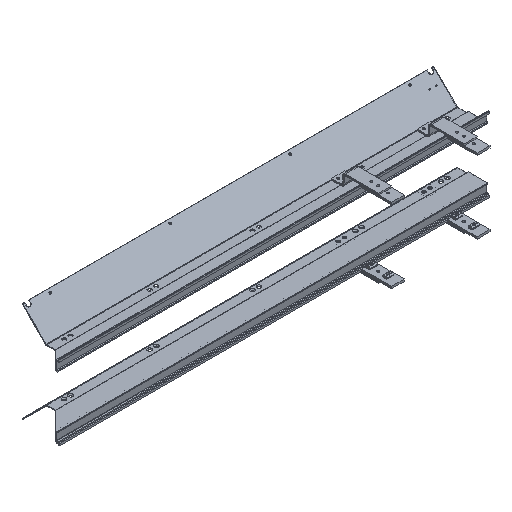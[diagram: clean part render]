
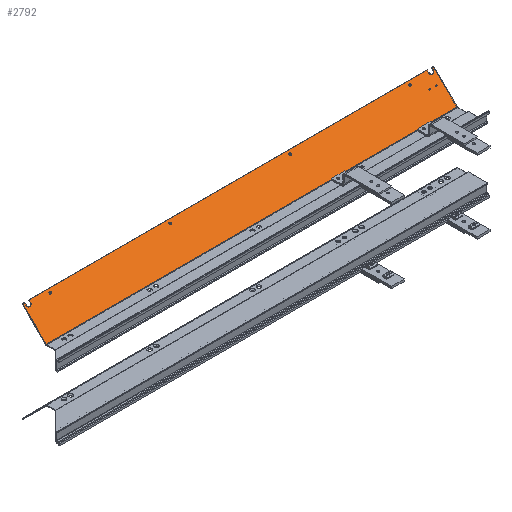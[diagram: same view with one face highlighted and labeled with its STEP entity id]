
A CAD part, isometric view. The second image highlights one B-rep face of the part: STEP entity #2792.
In plain terms, the highlighted planar face has unit normal (0, -0.707, 0.707).
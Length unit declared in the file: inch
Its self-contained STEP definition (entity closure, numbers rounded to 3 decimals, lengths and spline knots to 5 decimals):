
#1703=DIRECTION('',(-1.,0.,0.));
#1704=VECTOR('',#1703,48.);
#1705=CARTESIAN_POINT('',(0.,1.08655,-2.75135));
#1706=LINE('',#1705,#1704);
#1851=CARTESIAN_POINT('',(-47.5,3.65971,-0.17819));
#1852=DIRECTION('',(0.,-0.707,0.707));
#1853=DIRECTION('',(-1.,0.,0.));
#1854=AXIS2_PLACEMENT_3D('',#1851,#1852,#1853);
#1856=DIRECTION('',(0.,-0.707,-0.707));
#1857=VECTOR('',#1856,0.252);
#1858=CARTESIAN_POINT('',(-47.235,3.8379,0.));
#1859=LINE('',#1858,#1857);
#1860=DIRECTION('',(-1.,0.,0.));
#1861=VECTOR('',#1860,46.47);
#1862=CARTESIAN_POINT('',(-0.765,3.8379,0.));
#1863=LINE('',#1862,#1861);
#1864=DIRECTION('',(0.,-0.707,-0.707));
#1865=VECTOR('',#1864,0.252);
#1866=CARTESIAN_POINT('',(-0.765,3.8379,0.));
#1867=LINE('',#1866,#1865);
#1868=CARTESIAN_POINT('',(-0.5,3.65971,-0.17819));
#1869=DIRECTION('',(0.,-0.707,0.707));
#1870=DIRECTION('',(-1.,0.,0.));
#1871=AXIS2_PLACEMENT_3D('',#1868,#1869,#1870);
#1873=DIRECTION('',(0.,-0.707,-0.707));
#1874=VECTOR('',#1873,0.252);
#1875=CARTESIAN_POINT('',(-0.235,3.8379,0.));
#1876=LINE('',#1875,#1874);
#1877=DIRECTION('',(-1.,0.,0.));
#1878=VECTOR('',#1877,0.235);
#1879=CARTESIAN_POINT('',(0.,3.8379,0.));
#1880=LINE('',#1879,#1878);
#1881=DIRECTION('',(-1.,0.,0.));
#1882=VECTOR('',#1881,0.235);
#1883=CARTESIAN_POINT('',(-47.765,3.8379,0.));
#1884=LINE('',#1883,#1882);
#1885=DIRECTION('',(0.,-0.707,-0.707));
#1886=VECTOR('',#1885,0.252);
#1887=CARTESIAN_POINT('',(-47.765,3.8379,0.));
#1888=LINE('',#1887,#1886);
#1889=CARTESIAN_POINT('',(-31.,3.57274,-0.26517));
#1890=DIRECTION('',(0.,-0.707,0.707));
#1891=DIRECTION('',(-1.,0.,0.));
#1892=AXIS2_PLACEMENT_3D('',#1889,#1890,#1891);
#1894=CARTESIAN_POINT('',(-31.,3.57274,-0.26517));
#1895=DIRECTION('',(0.,-0.707,0.707));
#1896=DIRECTION('',(1.,0.,0.));
#1897=AXIS2_PLACEMENT_3D('',#1894,#1895,#1896);
#1899=CARTESIAN_POINT('',(-17.,3.57274,-0.26517));
#1900=DIRECTION('',(0.,-0.707,0.707));
#1901=DIRECTION('',(-1.,0.,0.));
#1902=AXIS2_PLACEMENT_3D('',#1899,#1900,#1901);
#1904=CARTESIAN_POINT('',(-17.,3.57274,-0.26517));
#1905=DIRECTION('',(0.,-0.707,0.707));
#1906=DIRECTION('',(1.,0.,0.));
#1907=AXIS2_PLACEMENT_3D('',#1904,#1905,#1906);
#1909=CARTESIAN_POINT('',(-3.,3.57274,-0.26517));
#1910=DIRECTION('',(0.,-0.707,0.707));
#1911=DIRECTION('',(-1.,0.,0.));
#1912=AXIS2_PLACEMENT_3D('',#1909,#1910,#1911);
#1914=CARTESIAN_POINT('',(-3.,3.57274,-0.26517));
#1915=DIRECTION('',(0.,-0.707,0.707));
#1916=DIRECTION('',(1.,0.,0.));
#1917=AXIS2_PLACEMENT_3D('',#1914,#1915,#1916);
#1919=CARTESIAN_POINT('',(-45.,3.57274,-0.26517));
#1920=DIRECTION('',(0.,-0.707,0.707));
#1921=DIRECTION('',(-1.,0.,0.));
#1922=AXIS2_PLACEMENT_3D('',#1919,#1920,#1921);
#1924=CARTESIAN_POINT('',(-45.,3.57274,-0.26517));
#1925=DIRECTION('',(0.,-0.707,0.707));
#1926=DIRECTION('',(1.,0.,0.));
#1927=AXIS2_PLACEMENT_3D('',#1924,#1925,#1926);
#1929=CARTESIAN_POINT('',(-0.75,2.77724,-1.06066));
#1930=DIRECTION('',(0.,-0.707,0.707));
#1931=DIRECTION('',(0.,-0.707,-0.707));
#1932=AXIS2_PLACEMENT_3D('',#1929,#1930,#1931);
#1934=CARTESIAN_POINT('',(-0.75,2.77724,-1.06066));
#1935=DIRECTION('',(0.,-0.707,0.707));
#1936=DIRECTION('',(0.,0.707,0.707));
#1937=AXIS2_PLACEMENT_3D('',#1934,#1935,#1936);
#1939=CARTESIAN_POINT('',(-1.5,2.77724,-1.06066));
#1940=DIRECTION('',(0.,-0.707,0.707));
#1941=DIRECTION('',(0.,-0.707,-0.707));
#1942=AXIS2_PLACEMENT_3D('',#1939,#1940,#1941);
#1944=CARTESIAN_POINT('',(-1.5,2.77724,-1.06066));
#1945=DIRECTION('',(0.,-0.707,0.707));
#1946=DIRECTION('',(0.,0.707,0.707));
#1947=AXIS2_PLACEMENT_3D('',#1944,#1945,#1946);
#1981=DIRECTION('',(0.,-0.707,-0.707));
#1982=VECTOR('',#1981,3.891);
#1983=CARTESIAN_POINT('',(0.,3.8379,0.));
#1984=LINE('',#1983,#1982);
#1993=DIRECTION('',(0.,-0.707,-0.707));
#1994=VECTOR('',#1993,3.891);
#1995=CARTESIAN_POINT('',(-48.,3.8379,0.));
#1996=LINE('',#1995,#1994);
#2101=CARTESIAN_POINT('',(0.,3.8379,0.));
#2102=CARTESIAN_POINT('',(0.,1.08655,-2.75135));
#2103=VERTEX_POINT('',#2101);
#2104=VERTEX_POINT('',#2102);
#2109=CARTESIAN_POINT('',(-48.,3.8379,0.));
#2110=CARTESIAN_POINT('',(-48.,1.08655,-2.75135));
#2111=VERTEX_POINT('',#2109);
#2112=VERTEX_POINT('',#2110);
#2181=CARTESIAN_POINT('',(-31.11,3.57274,-0.26517));
#2182=CARTESIAN_POINT('',(-30.89,3.57274,-0.26517));
#2183=VERTEX_POINT('',#2181);
#2184=VERTEX_POINT('',#2182);
#2185=CARTESIAN_POINT('',(-17.11,3.57274,-0.26517));
#2186=CARTESIAN_POINT('',(-16.89,3.57274,-0.26517));
#2187=VERTEX_POINT('',#2185);
#2188=VERTEX_POINT('',#2186);
#2197=CARTESIAN_POINT('',(-3.11,3.57274,-0.26517));
#2198=CARTESIAN_POINT('',(-2.89,3.57274,-0.26517));
#2199=VERTEX_POINT('',#2197);
#2200=VERTEX_POINT('',#2198);
#2201=CARTESIAN_POINT('',(-45.11,3.57274,-0.26517));
#2202=CARTESIAN_POINT('',(-44.89,3.57274,-0.26517));
#2203=VERTEX_POINT('',#2201);
#2204=VERTEX_POINT('',#2202);
#2229=CARTESIAN_POINT('',(-0.765,3.65971,-0.17819));
#2230=CARTESIAN_POINT('',(-0.235,3.65971,-0.17819));
#2231=VERTEX_POINT('',#2229);
#2232=VERTEX_POINT('',#2230);
#2233=CARTESIAN_POINT('',(-0.235,3.8379,0.));
#2234=VERTEX_POINT('',#2233);
#2235=CARTESIAN_POINT('',(-0.765,3.8379,0.));
#2236=VERTEX_POINT('',#2235);
#2245=CARTESIAN_POINT('',(-47.765,3.65971,-0.17819));
#2246=CARTESIAN_POINT('',(-47.235,3.65971,-0.17819));
#2247=VERTEX_POINT('',#2245);
#2248=VERTEX_POINT('',#2246);
#2249=CARTESIAN_POINT('',(-47.235,3.8379,0.));
#2250=VERTEX_POINT('',#2249);
#2251=CARTESIAN_POINT('',(-47.765,3.8379,0.));
#2252=VERTEX_POINT('',#2251);
#2261=CARTESIAN_POINT('',(-0.75,2.73548,-1.10242));
#2262=CARTESIAN_POINT('',(-0.75,2.819,-1.0189));
#2263=VERTEX_POINT('',#2261);
#2264=VERTEX_POINT('',#2262);
#2269=CARTESIAN_POINT('',(-1.5,2.73548,-1.10242));
#2270=CARTESIAN_POINT('',(-1.5,2.819,-1.0189));
#2271=VERTEX_POINT('',#2269);
#2272=VERTEX_POINT('',#2270);
#2727=CARTESIAN_POINT('',(0.,3.8379,0.));
#2728=DIRECTION('',(0.,-0.707,0.707));
#2729=DIRECTION('',(0.,-0.707,-0.707));
#2730=AXIS2_PLACEMENT_3D('',#2727,#2728,#2729);
#2731=PLANE('',#2730);
#2732=ORIENTED_EDGE('',*,*,#2717,.T.);
#2734=ORIENTED_EDGE('',*,*,#2733,.F.);
#2736=ORIENTED_EDGE('',*,*,#2735,.F.);
#2738=ORIENTED_EDGE('',*,*,#2737,.T.);
#2740=ORIENTED_EDGE('',*,*,#2739,.T.);
#2742=ORIENTED_EDGE('',*,*,#2741,.F.);
#2744=ORIENTED_EDGE('',*,*,#2743,.F.);
#2746=ORIENTED_EDGE('',*,*,#2745,.T.);
#2747=ORIENTED_EDGE('',*,*,#2587,.T.);
#2749=ORIENTED_EDGE('',*,*,#2748,.F.);
#2751=ORIENTED_EDGE('',*,*,#2750,.F.);
#2753=ORIENTED_EDGE('',*,*,#2752,.T.);
#2754=EDGE_LOOP('',(#2732,#2734,#2736,#2738,#2740,#2742,#2744,#2746,#2747,#2749,
#2751,#2753));
#2755=FACE_OUTER_BOUND('',#2754,.F.);
#2757=ORIENTED_EDGE('',*,*,#2756,.T.);
#2759=ORIENTED_EDGE('',*,*,#2758,.T.);
#2760=EDGE_LOOP('',(#2757,#2759));
#2761=FACE_BOUND('',#2760,.F.);
#2763=ORIENTED_EDGE('',*,*,#2762,.T.);
#2765=ORIENTED_EDGE('',*,*,#2764,.T.);
#2766=EDGE_LOOP('',(#2763,#2765));
#2767=FACE_BOUND('',#2766,.F.);
#2769=ORIENTED_EDGE('',*,*,#2768,.T.);
#2771=ORIENTED_EDGE('',*,*,#2770,.T.);
#2772=EDGE_LOOP('',(#2769,#2771));
#2773=FACE_BOUND('',#2772,.F.);
#2775=ORIENTED_EDGE('',*,*,#2774,.T.);
#2777=ORIENTED_EDGE('',*,*,#2776,.T.);
#2778=EDGE_LOOP('',(#2775,#2777));
#2779=FACE_BOUND('',#2778,.F.);
#2781=ORIENTED_EDGE('',*,*,#2780,.T.);
#2783=ORIENTED_EDGE('',*,*,#2782,.T.);
#2784=EDGE_LOOP('',(#2781,#2783));
#2785=FACE_BOUND('',#2784,.F.);
#2787=ORIENTED_EDGE('',*,*,#2786,.T.);
#2789=ORIENTED_EDGE('',*,*,#2788,.T.);
#2790=EDGE_LOOP('',(#2787,#2789));
#2791=FACE_BOUND('',#2790,.F.);
#1855=CIRCLE('',#1854,0.265);
#1872=CIRCLE('',#1871,0.265);
#1893=CIRCLE('',#1892,0.11);
#1898=CIRCLE('',#1897,0.11);
#1903=CIRCLE('',#1902,0.11);
#1908=CIRCLE('',#1907,0.11);
#1913=CIRCLE('',#1912,0.11);
#1918=CIRCLE('',#1917,0.11);
#1923=CIRCLE('',#1922,0.11);
#1928=CIRCLE('',#1927,0.11);
#1933=CIRCLE('',#1932,0.05906);
#1938=CIRCLE('',#1937,0.05906);
#1943=CIRCLE('',#1942,0.05906);
#1948=CIRCLE('',#1947,0.05906);
#2587=EDGE_CURVE('',#2104,#2112,#1706,.T.);
#2717=EDGE_CURVE('',#2247,#2248,#1855,.T.);
#2733=EDGE_CURVE('',#2250,#2248,#1859,.T.);
#2735=EDGE_CURVE('',#2236,#2250,#1863,.T.);
#2737=EDGE_CURVE('',#2236,#2231,#1867,.T.);
#2739=EDGE_CURVE('',#2231,#2232,#1872,.T.);
#2741=EDGE_CURVE('',#2234,#2232,#1876,.T.);
#2743=EDGE_CURVE('',#2103,#2234,#1880,.T.);
#2745=EDGE_CURVE('',#2103,#2104,#1984,.T.);
#2748=EDGE_CURVE('',#2111,#2112,#1996,.T.);
#2750=EDGE_CURVE('',#2252,#2111,#1884,.T.);
#2752=EDGE_CURVE('',#2252,#2247,#1888,.T.);
#2756=EDGE_CURVE('',#2183,#2184,#1893,.T.);
#2758=EDGE_CURVE('',#2184,#2183,#1898,.T.);
#2762=EDGE_CURVE('',#2187,#2188,#1903,.T.);
#2764=EDGE_CURVE('',#2188,#2187,#1908,.T.);
#2768=EDGE_CURVE('',#2199,#2200,#1913,.T.);
#2770=EDGE_CURVE('',#2200,#2199,#1918,.T.);
#2774=EDGE_CURVE('',#2203,#2204,#1923,.T.);
#2776=EDGE_CURVE('',#2204,#2203,#1928,.T.);
#2780=EDGE_CURVE('',#2263,#2264,#1933,.T.);
#2782=EDGE_CURVE('',#2264,#2263,#1938,.T.);
#2786=EDGE_CURVE('',#2271,#2272,#1943,.T.);
#2788=EDGE_CURVE('',#2272,#2271,#1948,.T.);
#2792=ADVANCED_FACE('',(#2755,#2761,#2767,#2773,#2779,#2785,#2791),#2731,.T.);
